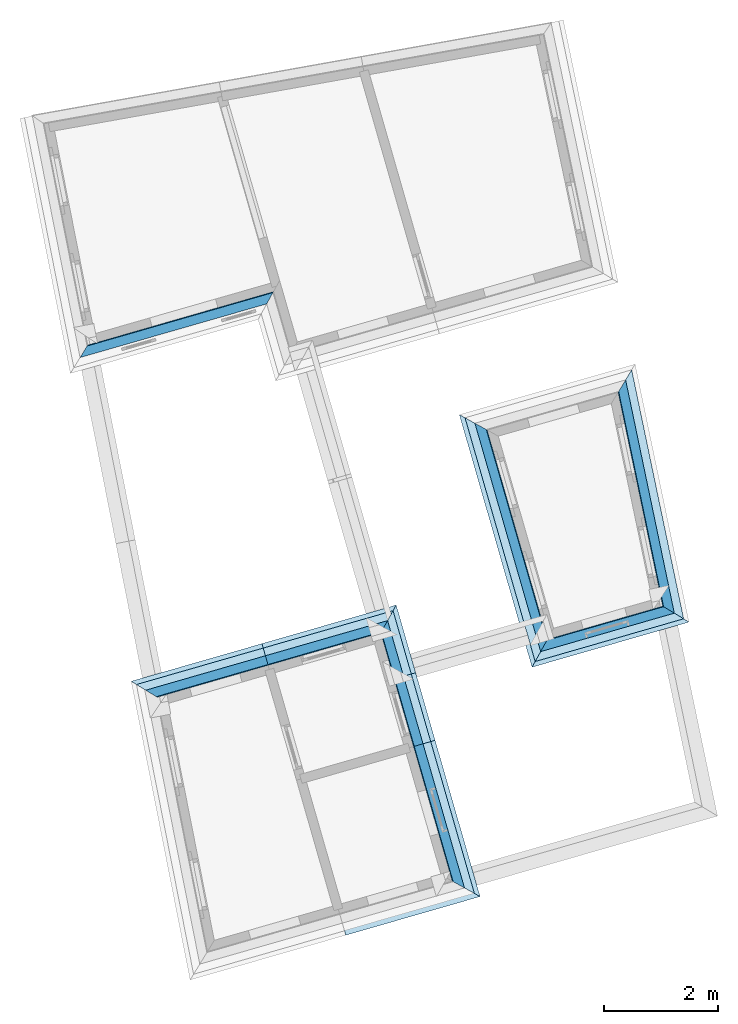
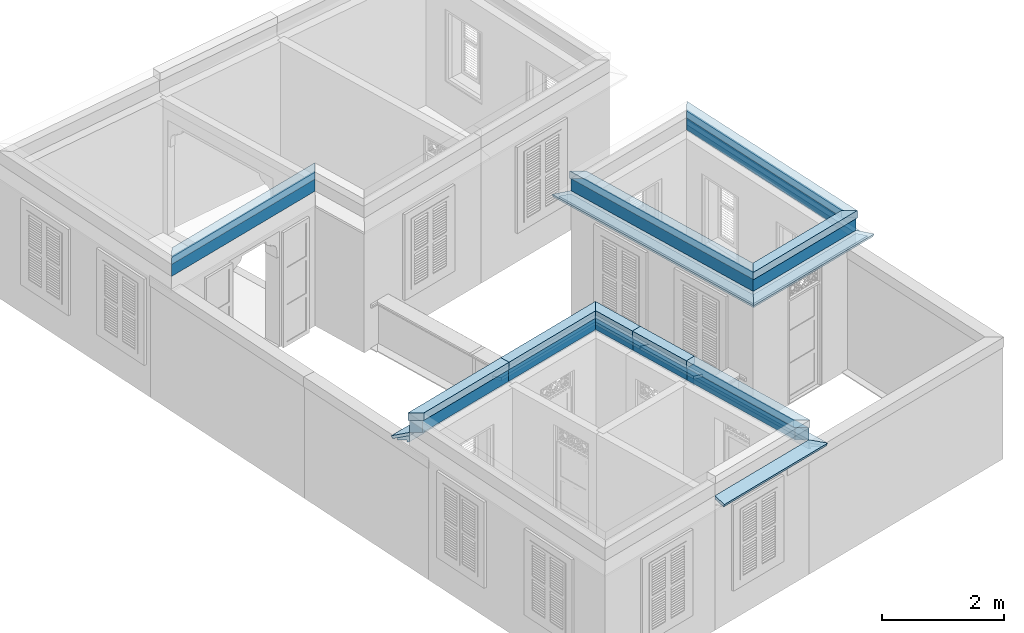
# One storey, part 20 of 22: 34 roofs.
"""IFC4 building model written with IfcOpenShell, lengths in metres."""

from ifc_helpers import new_model, si_unit, frame, origin_with_axes, place, context, subcontext, project, spatial, polyline, outline, extrude, clip, halfspace, material_profile, profile_set, profile_usage, type_object, element, save


model = new_model("IFC4")

# Units and contexts
model_context = context("Model", 3, world=origin_with_axes())
body_context = subcontext(model_context, "Body", "Model", "MODEL_VIEW")
ifc_project = project(units=[si_unit("PLANEANGLEUNIT", "RADIAN"), si_unit("MASSUNIT", "GRAM", prefix="KILO"), si_unit("FORCEUNIT", "NEWTON", prefix="KILO"), si_unit("LENGTHUNIT", "METRE"), si_unit("AREAUNIT", "SQUARE_METRE"), si_unit("VOLUMEUNIT", "CUBIC_METRE")], contexts=[model_context, model_context])

# Site, building, storey
site_placement = place(None, origin_with_axes())
site = spatial("IfcSite", under=ifc_project, at=site_placement, Name="Site plot-9", CompositionType="ELEMENT")
building_placement = place(None, origin_with_axes())
building = spatial("IfcBuilding", under=site, at=building_placement, Name="Building plot-9", CompositionType="ELEMENT")
storey_placement = place(None, frame((0.0, 0.0, 2.85), z_axis=(0.0, 0.0, 1.0), x_axis=(1.0, 0.0, 0.0)))
storey = spatial("IfcBuildingStorey", under=building, at=storey_placement, Name="plot-9 1", CompositionType="ELEMENT", Elevation=2.85)

# Roofs
ifc_material_profile_1 = material_profile(None, outline(polyline([(0.25, 0.0), (0.25, 0.245), (0.09, 0.245), (0.09, 0.0), (0.25, 0.0)])))
ifc_profile_set_1 = profile_set([ifc_material_profile_1])
ifc_profile_usage_1 = profile_usage(ifc_profile_set_1)
roof_type_1 = type_object("IfcRoofType", Name="roofline_0", PredefinedType="FREEFORM", material=ifc_profile_set_1)
roof_1_placement = place(storey_placement, frame((-14.0052509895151, -2.28582190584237, 2.7), z_axis=(-0.276523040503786, 0.96100728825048, 0.0), x_axis=(-0.96100728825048, -0.276523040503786, 0.0)))
element("IfcRoof", 1, at=roof_1_placement, inside=storey, type_object=roof_type_1, material=ifc_profile_usage_1, Name="roofline_0", context=body_context, shape_type="Clipping", body=[
    clip(clip(extrude(outline(polyline([(0.25, 0.0), (0.25, 0.245), (0.09, 0.245), (0.09, 0.0), (0.25, 0.0)])), origin_with_axes(), (0.0, 0.0, 1.0), 5.65707004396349), halfspace(frame((0.0, 0.0, 4.65707004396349), z_axis=(0.70710678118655, 0.0, -0.707106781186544), x_axis=(0.0, 1.0, 0.0)), True)), halfspace(frame((0.0, 0.0, 1.0), z_axis=(-0.707106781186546, 0.0, -0.707106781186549), x_axis=(0.0, 1.0, 0.0)), False)),
])
ifc_profile_usage_2 = profile_usage(ifc_profile_set_1)
roof_2_placement = place(storey_placement, frame((-11.4459590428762, -0.508828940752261, 2.7), z_axis=(-0.961007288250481, -0.276523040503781, 0.0), x_axis=(0.276523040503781, -0.961007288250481, 0.0)))
element("IfcRoof", 2, at=roof_2_placement, inside=storey, type_object=roof_type_1, material=ifc_profile_usage_2, Name="roofline_0", context=body_context, shape_type="Clipping", body=[
    clip(clip(extrude(outline(polyline([(0.25, 0.0), (0.25, 0.245), (0.09, 0.245), (0.09, 0.0), (0.25, 0.0)])), origin_with_axes(), (0.0, 0.0, 1.0), 3.95087771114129), halfspace(frame((0.0, 0.0, 2.95087771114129), z_axis=(0.707106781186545, 0.0, -0.70710678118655), x_axis=(0.0, 1.0, 0.0)), True)), halfspace(frame((0.0, 0.0, 1.0), z_axis=(-0.680340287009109, 0.0, -0.732896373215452), x_axis=(0.0, 1.0, 0.0)), False)),
])
ifc_profile_usage_3 = profile_usage(ifc_profile_set_1)
roof_3_placement = place(storey_placement, frame((-13.3608541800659, 3.78332922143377, 2.7), z_axis=(0.204381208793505, -0.978891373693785, 0.0), x_axis=(0.978891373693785, 0.204381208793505, 0.0)))
element("IfcRoof", 3, at=roof_3_placement, inside=storey, type_object=roof_type_1, material=ifc_profile_usage_3, Name="roofline_0", context=body_context, shape_type="Clipping", body=[
    clip(clip(extrude(outline(polyline([(0.25, 0.0), (0.25, 0.245), (0.09, 0.245), (0.09, 0.0), (0.25, 0.0)])), origin_with_axes(), (0.0, 0.0, 1.0), 5.66719937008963), halfspace(frame((0.0, 0.0, 4.66719937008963), z_axis=(0.680340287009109, 0.0, -0.732896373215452), x_axis=(0.0, 1.0, 0.0)), True)), halfspace(frame((0.0, 0.0, 1.0), z_axis=(-0.732896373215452, 0.0, -0.680340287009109), x_axis=(0.0, 1.0, 0.0)), False)),
])
ifc_material_profile_2 = material_profile(None, outline(polyline([(0.265, 0.245), (0.265, 0.395), (0.075, 0.395), (0.075, 0.245), (0.265, 0.245)])))
ifc_profile_set_2 = profile_set([ifc_material_profile_2])
ifc_profile_usage_4 = profile_usage(ifc_profile_set_2)
roof_type_2 = type_object("IfcRoofType", Name="roofline_1", PredefinedType="FREEFORM", material=ifc_profile_set_2)
roof_4_placement = place(storey_placement, frame((-14.0052509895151, -2.28582190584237, 2.7), z_axis=(-0.276523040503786, 0.96100728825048, 0.0), x_axis=(-0.96100728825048, -0.276523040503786, 0.0)))
element("IfcRoof", 4, at=roof_4_placement, inside=storey, type_object=roof_type_2, material=ifc_profile_usage_4, Name="roofline_1", context=body_context, shape_type="Clipping", body=[
    clip(clip(extrude(outline(polyline([(0.265, 0.245), (0.265, 0.395), (0.075, 0.395), (0.075, 0.245), (0.265, 0.245)])), origin_with_axes(), (0.0, 0.0, 1.0), 5.65707004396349), halfspace(frame((0.0, 0.0, 4.65707004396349), z_axis=(0.70710678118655, 0.0, -0.707106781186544), x_axis=(0.0, 1.0, 0.0)), True)), halfspace(frame((0.0, 0.0, 1.0), z_axis=(-0.707106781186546, 0.0, -0.707106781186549), x_axis=(0.0, 1.0, 0.0)), False)),
])
ifc_profile_usage_5 = profile_usage(ifc_profile_set_2)
roof_5_placement = place(storey_placement, frame((-11.4459590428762, -0.508828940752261, 2.7), z_axis=(-0.961007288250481, -0.276523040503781, 0.0), x_axis=(0.276523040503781, -0.961007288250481, 0.0)))
element("IfcRoof", 5, at=roof_5_placement, inside=storey, type_object=roof_type_2, material=ifc_profile_usage_5, Name="roofline_1", context=body_context, shape_type="Clipping", body=[
    clip(clip(extrude(outline(polyline([(0.265, 0.245), (0.265, 0.395), (0.075, 0.395), (0.075, 0.245), (0.265, 0.245)])), origin_with_axes(), (0.0, 0.0, 1.0), 3.95087771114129), halfspace(frame((0.0, 0.0, 2.95087771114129), z_axis=(0.707106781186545, 0.0, -0.70710678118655), x_axis=(0.0, 1.0, 0.0)), True)), halfspace(frame((0.0, 0.0, 1.0), z_axis=(-0.680340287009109, 0.0, -0.732896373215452), x_axis=(0.0, 1.0, 0.0)), False)),
])
ifc_profile_usage_6 = profile_usage(ifc_profile_set_2)
roof_6_placement = place(storey_placement, frame((-13.3608541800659, 3.78332922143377, 2.7), z_axis=(0.204381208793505, -0.978891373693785, 0.0), x_axis=(0.978891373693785, 0.204381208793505, 0.0)))
element("IfcRoof", 6, at=roof_6_placement, inside=storey, type_object=roof_type_2, material=ifc_profile_usage_6, Name="roofline_1", context=body_context, shape_type="Clipping", body=[
    clip(clip(extrude(outline(polyline([(0.265, 0.245), (0.265, 0.395), (0.075, 0.395), (0.075, 0.245), (0.265, 0.245)])), origin_with_axes(), (0.0, 0.0, 1.0), 5.66719937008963), halfspace(frame((0.0, 0.0, 4.66719937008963), z_axis=(0.680340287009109, 0.0, -0.732896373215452), x_axis=(0.0, 1.0, 0.0)), True)), halfspace(frame((0.0, 0.0, 1.0), z_axis=(-0.732896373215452, 0.0, -0.680340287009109), x_axis=(0.0, 1.0, 0.0)), False)),
])
ifc_material_profile_3 = material_profile(None, outline(polyline([(0.25, 0.0), (0.25, 0.245), (0.09, 0.245), (0.09, 0.0), (0.25, 0.0)])))
ifc_profile_set_3 = profile_set([ifc_material_profile_3])
ifc_profile_usage_7 = profile_usage(ifc_profile_set_3)
roof_type_3 = type_object("IfcRoofType", Name="roofline_0", PredefinedType="FREEFORM", material=ifc_profile_set_3)
roof_7_placement = place(storey_placement, frame((-20.1592093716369, -2.22311497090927, 2.7), z_axis=(0.961007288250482, 0.27652304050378, 0.0), x_axis=(-0.27652304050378, 0.961007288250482, 0.0)))
element("IfcRoof", 7, at=roof_7_placement, inside=storey, type_object=roof_type_3, material=ifc_profile_usage_7, Name="roofline_0", context=body_context, shape_type="Clipping", body=[
    clip(clip(extrude(outline(polyline([(0.25, 0.0), (0.25, 0.245), (0.09, 0.245), (0.09, 0.0), (0.25, 0.0)])), origin_with_axes(), (0.0, 0.0, 1.0), 3.9732685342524), halfspace(frame((0.0, 0.0, 2.9732685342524), z_axis=(0.707106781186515, 0.0, -0.70710678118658), x_axis=(0.0, 1.0, 0.0)), True)), halfspace(frame((0.0, 0.0, 1.0), z_axis=(8.26946079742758e-16, 0.0, -1.0), x_axis=(0.0, 1.0, 0.0)), False)),
])
ifc_profile_usage_8 = profile_usage(ifc_profile_set_3)
roof_8_placement = place(storey_placement, frame((-22.033066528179, -2.76230409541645, 2.7), z_axis=(0.961007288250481, 0.276523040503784, 0.0), x_axis=(-0.276523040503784, 0.961007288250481, 0.0)))
element("IfcRoof", 8, at=roof_8_placement, inside=storey, type_object=roof_type_3, material=ifc_profile_usage_8, Name="roofline_0", context=body_context, shape_type="Clipping", body=[
    clip(clip(extrude(outline(polyline([(0.25, 0.0), (0.25, 0.245), (0.09, 0.245), (0.09, 0.0), (0.25, 0.0)])), origin_with_axes(), (0.0, 0.0, 1.0), 3.94988860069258), halfspace(frame((0.0, 0.0, 2.94988860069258), z_axis=(4.37965975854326e-15, 0.0, -1.0), x_axis=(0.0, 1.0, 0.0)), True)), halfspace(frame((0.0, 0.0, 1.0), z_axis=(-0.676326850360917, 0.0, -0.736601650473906), x_axis=(0.0, 1.0, 0.0)), False)),
])
ifc_profile_usage_9 = profile_usage(ifc_profile_set_3)
roof_9_placement = place(storey_placement, frame((-17.0274500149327, -2.35465928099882, 2.7), z_axis=(0.276523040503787, -0.96100728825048, 0.0), x_axis=(0.96100728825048, 0.276523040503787, 0.0)))
element("IfcRoof", 9, at=roof_9_placement, inside=storey, type_object=roof_type_3, material=ifc_profile_usage_9, Name="roofline_0", context=body_context, shape_type="Clipping", body=[
    clip(clip(extrude(outline(polyline([(0.25, 0.0), (0.25, 0.245), (0.09, 0.245), (0.09, 0.0), (0.25, 0.0)])), origin_with_axes(), (0.0, 0.0, 1.0), 4.37392456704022), halfspace(frame((0.0, 0.0, 3.37392456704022), z_axis=(0.707106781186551, 0.0, -0.707106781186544), x_axis=(0.0, 1.0, 0.0)), True)), halfspace(frame((0.0, 0.0, 1.0), z_axis=(1.60812264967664e-16, 0.0, -1.0), x_axis=(0.0, 1.0, 0.0)), False)),
])
ifc_profile_usage_10 = profile_usage(ifc_profile_set_3)
roof_10_placement = place(storey_placement, frame((-17.3676965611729, -1.17219213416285, 2.7), z_axis=(0.276523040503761, -0.961007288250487, 0.0), x_axis=(0.961007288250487, 0.276523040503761, 0.0)))
element("IfcRoof", 10, at=roof_10_placement, inside=storey, type_object=roof_type_3, material=ifc_profile_usage_10, Name="roofline_0", context=body_context, shape_type="Clipping", body=[
    clip(clip(extrude(outline(polyline([(0.25, 0.0), (0.25, 0.245), (0.09, 0.245), (0.09, 0.0), (0.25, 0.0)])), origin_with_axes(), (0.0, 0.0, 1.0), 3.23044555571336), halfspace(frame((0.0, 0.0, 2.23044555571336), z_axis=(-2.71506741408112e-14, 0.0, -1.0), x_axis=(0.0, 1.0, 0.0)), True)), halfspace(frame((0.0, 0.0, 1.0), z_axis=(6.04901474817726e-16, 0.0, -1.0), x_axis=(0.0, 1.0, 0.0)), False)),
])
ifc_profile_usage_11 = profile_usage(ifc_profile_set_3)
roof_11_placement = place(storey_placement, frame((-17.5783996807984, -0.439930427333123, 2.7), z_axis=(0.276523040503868, -0.961007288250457, 0.0), x_axis=(0.961007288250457, 0.276523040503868, 0.0)))
element("IfcRoof", 11, at=roof_11_placement, inside=storey, type_object=roof_type_3, material=ifc_profile_usage_11, Name="roofline_0", context=body_context, shape_type="Clipping", body=[
    clip(clip(extrude(outline(polyline([(0.25, 0.0), (0.25, 0.245), (0.09, 0.245), (0.09, 0.0), (0.25, 0.0)])), origin_with_axes(), (0.0, 0.0, 1.0), 2.76197310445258), halfspace(frame((0.0, 0.0, 1.76197310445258), z_axis=(1.11405159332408e-13, 0.0, -1.0), x_axis=(0.0, 1.0, 0.0)), True)), halfspace(frame((0.0, 0.0, 1.0), z_axis=(-0.707106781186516, 0.0, -0.707106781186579), x_axis=(0.0, 1.0, 0.0)), False)),
])
ifc_material_profile_4 = material_profile(None, outline(polyline([(0.265, 0.245), (0.265, 0.395), (0.075, 0.395), (0.075, 0.245), (0.265, 0.245)])))
ifc_profile_set_4 = profile_set([ifc_material_profile_4])
ifc_profile_usage_12 = profile_usage(ifc_profile_set_4)
roof_type_4 = type_object("IfcRoofType", Name="roofline_1", PredefinedType="FREEFORM", material=ifc_profile_set_4)
roof_12_placement = place(storey_placement, frame((-20.1592093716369, -2.22311497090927, 2.7), z_axis=(0.961007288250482, 0.27652304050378, 0.0), x_axis=(-0.27652304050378, 0.961007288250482, 0.0)))
element("IfcRoof", 12, at=roof_12_placement, inside=storey, type_object=roof_type_4, material=ifc_profile_usage_12, Name="roofline_1", context=body_context, shape_type="Clipping", body=[
    clip(clip(extrude(outline(polyline([(0.265, 0.245), (0.265, 0.395), (0.075, 0.395), (0.075, 0.245), (0.265, 0.245)])), origin_with_axes(), (0.0, 0.0, 1.0), 3.9732685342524), halfspace(frame((0.0, 0.0, 2.9732685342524), z_axis=(0.707106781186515, 0.0, -0.70710678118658), x_axis=(0.0, 1.0, 0.0)), True)), halfspace(frame((0.0, 0.0, 1.0), z_axis=(8.26946079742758e-16, 0.0, -1.0), x_axis=(0.0, 1.0, 0.0)), False)),
])
ifc_profile_usage_13 = profile_usage(ifc_profile_set_4)
roof_13_placement = place(storey_placement, frame((-22.033066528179, -2.76230409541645, 2.7), z_axis=(0.961007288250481, 0.276523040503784, 0.0), x_axis=(-0.276523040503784, 0.961007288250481, 0.0)))
element("IfcRoof", 13, at=roof_13_placement, inside=storey, type_object=roof_type_4, material=ifc_profile_usage_13, Name="roofline_1", context=body_context, shape_type="Clipping", body=[
    clip(clip(extrude(outline(polyline([(0.265, 0.245), (0.265, 0.395), (0.075, 0.395), (0.075, 0.245), (0.265, 0.245)])), origin_with_axes(), (0.0, 0.0, 1.0), 3.94988860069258), halfspace(frame((0.0, 0.0, 2.94988860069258), z_axis=(4.37965975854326e-15, 0.0, -1.0), x_axis=(0.0, 1.0, 0.0)), True)), halfspace(frame((0.0, 0.0, 1.0), z_axis=(-0.676326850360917, 0.0, -0.736601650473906), x_axis=(0.0, 1.0, 0.0)), False)),
])
ifc_profile_usage_14 = profile_usage(ifc_profile_set_4)
roof_14_placement = place(storey_placement, frame((-17.0274500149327, -2.35465928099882, 2.7), z_axis=(0.276523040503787, -0.96100728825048, 0.0), x_axis=(0.96100728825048, 0.276523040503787, 0.0)))
element("IfcRoof", 14, at=roof_14_placement, inside=storey, type_object=roof_type_4, material=ifc_profile_usage_14, Name="roofline_1", context=body_context, shape_type="Clipping", body=[
    clip(clip(extrude(outline(polyline([(0.265, 0.245), (0.265, 0.395), (0.075, 0.395), (0.075, 0.245), (0.265, 0.245)])), origin_with_axes(), (0.0, 0.0, 1.0), 4.37392456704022), halfspace(frame((0.0, 0.0, 3.37392456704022), z_axis=(0.707106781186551, 0.0, -0.707106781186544), x_axis=(0.0, 1.0, 0.0)), True)), halfspace(frame((0.0, 0.0, 1.0), z_axis=(1.60812264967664e-16, 0.0, -1.0), x_axis=(0.0, 1.0, 0.0)), False)),
])
ifc_profile_usage_15 = profile_usage(ifc_profile_set_4)
roof_15_placement = place(storey_placement, frame((-17.3676965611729, -1.17219213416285, 2.7), z_axis=(0.276523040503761, -0.961007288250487, 0.0), x_axis=(0.961007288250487, 0.276523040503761, 0.0)))
element("IfcRoof", 15, at=roof_15_placement, inside=storey, type_object=roof_type_4, material=ifc_profile_usage_15, Name="roofline_1", context=body_context, shape_type="Clipping", body=[
    clip(clip(extrude(outline(polyline([(0.265, 0.245), (0.265, 0.395), (0.075, 0.395), (0.075, 0.245), (0.265, 0.245)])), origin_with_axes(), (0.0, 0.0, 1.0), 3.23044555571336), halfspace(frame((0.0, 0.0, 2.23044555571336), z_axis=(-2.71506741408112e-14, 0.0, -1.0), x_axis=(0.0, 1.0, 0.0)), True)), halfspace(frame((0.0, 0.0, 1.0), z_axis=(6.04901474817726e-16, 0.0, -1.0), x_axis=(0.0, 1.0, 0.0)), False)),
])
ifc_profile_usage_16 = profile_usage(ifc_profile_set_4)
roof_16_placement = place(storey_placement, frame((-17.5783996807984, -0.439930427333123, 2.7), z_axis=(0.276523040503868, -0.961007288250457, 0.0), x_axis=(0.961007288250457, 0.276523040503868, 0.0)))
element("IfcRoof", 16, at=roof_16_placement, inside=storey, type_object=roof_type_4, material=ifc_profile_usage_16, Name="roofline_1", context=body_context, shape_type="Clipping", body=[
    clip(clip(extrude(outline(polyline([(0.265, 0.245), (0.265, 0.395), (0.075, 0.395), (0.075, 0.245), (0.265, 0.245)])), origin_with_axes(), (0.0, 0.0, 1.0), 2.76197310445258), halfspace(frame((0.0, 0.0, 1.76197310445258), z_axis=(1.11405159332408e-13, 0.0, -1.0), x_axis=(0.0, 1.0, 0.0)), True)), halfspace(frame((0.0, 0.0, 1.0), z_axis=(-0.707106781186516, 0.0, -0.707106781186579), x_axis=(0.0, 1.0, 0.0)), False)),
])
ifc_material_profile_5 = material_profile(None, outline(polyline([(0.25, 0.0), (0.25, 0.245), (0.09, 0.245), (0.09, 0.0), (0.25, 0.0)])))
ifc_profile_set_5 = profile_set([ifc_material_profile_5])
ifc_profile_usage_17 = profile_usage(ifc_profile_set_5)
roof_type_5 = type_object("IfcRoofType", Name="roofline_0", PredefinedType="FREEFORM", material=ifc_profile_set_5)
roof_17_placement = place(storey_placement, frame((-18.1128477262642, 5.03378497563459, 2.7), z_axis=(-0.96108624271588, -0.276248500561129, 0.0), x_axis=(0.276248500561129, -0.96108624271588, 0.0)))
element("IfcRoof", 17, at=roof_17_placement, inside=storey, type_object=roof_type_5, material=ifc_profile_usage_17, Name="roofline_0", context=body_context, shape_type="Clipping", body=[
    clip(clip(extrude(outline(polyline([(0.25, 0.0), (0.25, 0.245), (0.09, 0.245), (0.09, 0.0), (0.25, 0.0)])), origin_with_axes(), (0.0, 0.0, 1.0), 5.37532396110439), halfspace(frame((0.0, 0.0, 4.37532396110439), z_axis=(0.736505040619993, 0.0, -0.676432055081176), x_axis=(0.0, 1.0, 0.0)), True)), halfspace(frame((0.0, 0.0, 1.0), z_axis=(0.707005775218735, 0.0, -0.707207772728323), x_axis=(0.0, 1.0, 0.0)), False)),
])
ifc_material_profile_6 = material_profile(None, outline(polyline([(0.265, 0.245), (0.265, 0.395), (0.075, 0.395), (0.075, 0.245), (0.265, 0.245)])))
ifc_profile_set_6 = profile_set([ifc_material_profile_6])
ifc_profile_usage_18 = profile_usage(ifc_profile_set_6)
roof_type_6 = type_object("IfcRoofType", Name="roofline_1", PredefinedType="FREEFORM", material=ifc_profile_set_6)
roof_18_placement = place(storey_placement, frame((-18.1128477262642, 5.03378497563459, 2.7), z_axis=(-0.96108624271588, -0.276248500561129, 0.0), x_axis=(0.276248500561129, -0.96108624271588, 0.0)))
element("IfcRoof", 18, at=roof_18_placement, inside=storey, type_object=roof_type_6, material=ifc_profile_usage_18, Name="roofline_1", context=body_context, shape_type="Clipping", body=[
    clip(clip(extrude(outline(polyline([(0.265, 0.245), (0.265, 0.395), (0.075, 0.395), (0.075, 0.245), (0.265, 0.245)])), origin_with_axes(), (0.0, 0.0, 1.0), 5.37532396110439), halfspace(frame((0.0, 0.0, 4.37532396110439), z_axis=(0.736505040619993, 0.0, -0.676432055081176), x_axis=(0.0, 1.0, 0.0)), True)), halfspace(frame((0.0, 0.0, 1.0), z_axis=(0.707005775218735, 0.0, -0.707207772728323), x_axis=(0.0, 1.0, 0.0)), False)),
])
ifc_material_profile_7 = material_profile(None, outline(polyline([(0.25, -0.19), (0.275, -0.19), (0.275, -0.15), (0.39, -0.15), (0.39, -0.107509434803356), (0.25, -0.0629639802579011), (0.25, -0.19)])))
ifc_profile_set_7 = profile_set([ifc_material_profile_7])
ifc_profile_usage_19 = profile_usage(ifc_profile_set_7)
roof_type_7 = type_object("IfcRoofType", Name="eaves_0", PredefinedType="FREEFORM", material=ifc_profile_set_7)
roof_19_placement = place(storey_placement, frame((-14.0052509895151, -2.28582190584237, 2.7), z_axis=(-0.276523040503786, 0.96100728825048, 0.0), x_axis=(-0.96100728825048, -0.276523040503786, 0.0)))
element("IfcRoof", 19, at=roof_19_placement, inside=storey, type_object=roof_type_7, material=ifc_profile_usage_19, Name="eaves_0", context=body_context, shape_type="Clipping", body=[
    clip(clip(extrude(outline(polyline([(0.25, -0.19), (0.275, -0.19), (0.275, -0.15), (0.39, -0.15), (0.39, -0.107509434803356), (0.25, -0.0629639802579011), (0.25, -0.19)])), origin_with_axes(), (0.0, 0.0, 1.0), 5.65707004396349), halfspace(frame((0.0, 0.0, 4.65707004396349), z_axis=(0.70710678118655, 0.0, -0.707106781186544), x_axis=(0.0, 1.0, 0.0)), True)), halfspace(frame((0.0, 0.0, 1.0), z_axis=(-0.707106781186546, 0.0, -0.707106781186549), x_axis=(0.0, 1.0, 0.0)), False)),
])
ifc_profile_usage_20 = profile_usage(ifc_profile_set_7)
roof_20_placement = place(storey_placement, frame((-11.4459590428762, -0.508828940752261, 2.7), z_axis=(-0.961007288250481, -0.276523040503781, 0.0), x_axis=(0.276523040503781, -0.961007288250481, 0.0)))
element("IfcRoof", 20, at=roof_20_placement, inside=storey, type_object=roof_type_7, material=ifc_profile_usage_20, Name="eaves_0", context=body_context, shape_type="Clipping", body=[
    clip(clip(extrude(outline(polyline([(0.25, -0.19), (0.275, -0.19), (0.275, -0.15), (0.39, -0.15), (0.39, -0.107509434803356), (0.25, -0.0629639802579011), (0.25, -0.19)])), origin_with_axes(), (0.0, 0.0, 1.0), 3.95087771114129), halfspace(frame((0.0, 0.0, 2.95087771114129), z_axis=(0.707106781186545, 0.0, -0.70710678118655), x_axis=(0.0, 1.0, 0.0)), True)), halfspace(frame((0.0, 0.0, 1.0), z_axis=(-0.680340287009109, 0.0, -0.732896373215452), x_axis=(0.0, 1.0, 0.0)), False)),
])
ifc_profile_usage_21 = profile_usage(ifc_profile_set_7)
roof_21_placement = place(storey_placement, frame((-13.3608541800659, 3.78332922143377, 2.7), z_axis=(0.204381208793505, -0.978891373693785, 0.0), x_axis=(0.978891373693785, 0.204381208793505, 0.0)))
element("IfcRoof", 21, at=roof_21_placement, inside=storey, type_object=roof_type_7, material=ifc_profile_usage_21, Name="eaves_0", context=body_context, shape_type="Clipping", body=[
    clip(clip(extrude(outline(polyline([(0.25, -0.19), (0.275, -0.19), (0.275, -0.15), (0.39, -0.15), (0.39, -0.107509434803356), (0.25, -0.0629639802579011), (0.25, -0.19)])), origin_with_axes(), (0.0, 0.0, 1.0), 5.66719937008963), halfspace(frame((0.0, 0.0, 4.66719937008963), z_axis=(0.680340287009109, 0.0, -0.732896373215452), x_axis=(0.0, 1.0, 0.0)), True)), halfspace(frame((0.0, 0.0, 1.0), z_axis=(-0.732896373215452, 0.0, -0.680340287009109), x_axis=(0.0, 1.0, 0.0)), False)),
])
ifc_material_profile_8 = material_profile(None, outline(polyline([(0.25, -0.0629639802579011), (0.451807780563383, -0.127175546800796), (0.47, -0.07), (0.25, 0.0), (0.25, -0.0629639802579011)])))
ifc_profile_set_8 = profile_set([ifc_material_profile_8])
ifc_profile_usage_22 = profile_usage(ifc_profile_set_8)
roof_type_8 = type_object("IfcRoofType", Name="eaves_1", PredefinedType="FREEFORM", material=ifc_profile_set_8)
roof_22_placement = place(storey_placement, frame((-14.0052509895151, -2.28582190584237, 2.7), z_axis=(-0.276523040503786, 0.96100728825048, 0.0), x_axis=(-0.96100728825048, -0.276523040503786, 0.0)))
element("IfcRoof", 22, at=roof_22_placement, inside=storey, type_object=roof_type_8, material=ifc_profile_usage_22, Name="eaves_1", context=body_context, shape_type="Clipping", body=[
    clip(clip(extrude(outline(polyline([(0.25, -0.0629639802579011), (0.451807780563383, -0.127175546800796), (0.47, -0.07), (0.25, 0.0), (0.25, -0.0629639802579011)])), origin_with_axes(), (0.0, 0.0, 1.0), 5.65707004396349), halfspace(frame((0.0, 0.0, 4.65707004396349), z_axis=(0.70710678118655, 0.0, -0.707106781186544), x_axis=(0.0, 1.0, 0.0)), True)), halfspace(frame((0.0, 0.0, 1.0), z_axis=(-0.707106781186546, 0.0, -0.707106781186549), x_axis=(0.0, 1.0, 0.0)), False)),
])
ifc_profile_usage_23 = profile_usage(ifc_profile_set_8)
roof_23_placement = place(storey_placement, frame((-11.4459590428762, -0.508828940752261, 2.7), z_axis=(-0.961007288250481, -0.276523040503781, 0.0), x_axis=(0.276523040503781, -0.961007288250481, 0.0)))
element("IfcRoof", 23, at=roof_23_placement, inside=storey, type_object=roof_type_8, material=ifc_profile_usage_23, Name="eaves_1", context=body_context, shape_type="Clipping", body=[
    clip(clip(extrude(outline(polyline([(0.25, -0.0629639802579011), (0.451807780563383, -0.127175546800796), (0.47, -0.07), (0.25, 0.0), (0.25, -0.0629639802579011)])), origin_with_axes(), (0.0, 0.0, 1.0), 3.95087771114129), halfspace(frame((0.0, 0.0, 2.95087771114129), z_axis=(0.707106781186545, 0.0, -0.70710678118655), x_axis=(0.0, 1.0, 0.0)), True)), halfspace(frame((0.0, 0.0, 1.0), z_axis=(-0.680340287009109, 0.0, -0.732896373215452), x_axis=(0.0, 1.0, 0.0)), False)),
])
ifc_material_profile_9 = material_profile(None, outline(polyline([(0.25, -0.19), (0.275, -0.19), (0.275, -0.15), (0.39, -0.15), (0.39, -0.107509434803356), (0.25, -0.0629639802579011), (0.25, -0.19)])))
ifc_profile_set_9 = profile_set([ifc_material_profile_9])
ifc_profile_usage_24 = profile_usage(ifc_profile_set_9)
roof_type_9 = type_object("IfcRoofType", Name="eaves_0", PredefinedType="FREEFORM", material=ifc_profile_set_9)
roof_24_placement = place(storey_placement, frame((-22.033066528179, -2.76230409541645, 2.7), z_axis=(0.961007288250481, 0.276523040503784, 0.0), x_axis=(-0.276523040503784, 0.961007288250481, 0.0)))
element("IfcRoof", 24, at=roof_24_placement, inside=storey, type_object=roof_type_9, material=ifc_profile_usage_24, Name="eaves_0", context=body_context, shape_type="Clipping", body=[
    clip(clip(extrude(outline(polyline([(0.25, -0.19), (0.275, -0.19), (0.275, -0.15), (0.39, -0.15), (0.39, -0.107509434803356), (0.25, -0.0629639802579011), (0.25, -0.19)])), origin_with_axes(), (0.0, 0.0, 1.0), 3.94988860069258), halfspace(frame((0.0, 0.0, 2.94988860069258), z_axis=(4.37965975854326e-15, 0.0, -1.0), x_axis=(0.0, 1.0, 0.0)), True)), halfspace(frame((0.0, 0.0, 1.0), z_axis=(-0.676326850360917, 0.0, -0.736601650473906), x_axis=(0.0, 1.0, 0.0)), False)),
])
ifc_profile_usage_25 = profile_usage(ifc_profile_set_9)
roof_25_placement = place(storey_placement, frame((-17.0274500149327, -2.35465928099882, 2.7), z_axis=(0.276523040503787, -0.96100728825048, 0.0), x_axis=(0.96100728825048, 0.276523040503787, 0.0)))
element("IfcRoof", 25, at=roof_25_placement, inside=storey, type_object=roof_type_9, material=ifc_profile_usage_25, Name="eaves_0", context=body_context, shape_type="Clipping", body=[
    clip(clip(extrude(outline(polyline([(0.25, -0.19), (0.275, -0.19), (0.275, -0.15), (0.39, -0.15), (0.39, -0.107509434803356), (0.25, -0.0629639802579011), (0.25, -0.19)])), origin_with_axes(), (0.0, 0.0, 1.0), 4.37392456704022), halfspace(frame((0.0, 0.0, 3.37392456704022), z_axis=(0.707106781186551, 0.0, -0.707106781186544), x_axis=(0.0, 1.0, 0.0)), True)), halfspace(frame((0.0, 0.0, 1.0), z_axis=(1.60812264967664e-16, 0.0, -1.0), x_axis=(0.0, 1.0, 0.0)), False)),
])
ifc_profile_usage_26 = profile_usage(ifc_profile_set_9)
roof_26_placement = place(storey_placement, frame((-17.3676965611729, -1.17219213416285, 2.7), z_axis=(0.276523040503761, -0.961007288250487, 0.0), x_axis=(0.961007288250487, 0.276523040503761, 0.0)))
element("IfcRoof", 26, at=roof_26_placement, inside=storey, type_object=roof_type_9, material=ifc_profile_usage_26, Name="eaves_0", context=body_context, shape_type="Clipping", body=[
    clip(clip(extrude(outline(polyline([(0.25, -0.19), (0.275, -0.19), (0.275, -0.15), (0.39, -0.15), (0.39, -0.107509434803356), (0.25, -0.0629639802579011), (0.25, -0.19)])), origin_with_axes(), (0.0, 0.0, 1.0), 3.23044555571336), halfspace(frame((0.0, 0.0, 2.23044555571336), z_axis=(-2.71506741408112e-14, 0.0, -1.0), x_axis=(0.0, 1.0, 0.0)), True)), halfspace(frame((0.0, 0.0, 1.0), z_axis=(6.04901474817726e-16, 0.0, -1.0), x_axis=(0.0, 1.0, 0.0)), False)),
])
ifc_profile_usage_27 = profile_usage(ifc_profile_set_9)
roof_27_placement = place(storey_placement, frame((-17.5783996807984, -0.439930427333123, 2.7), z_axis=(0.276523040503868, -0.961007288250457, 0.0), x_axis=(0.961007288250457, 0.276523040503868, 0.0)))
element("IfcRoof", 27, at=roof_27_placement, inside=storey, type_object=roof_type_9, material=ifc_profile_usage_27, Name="eaves_0", context=body_context, shape_type="Clipping", body=[
    clip(clip(extrude(outline(polyline([(0.25, -0.19), (0.275, -0.19), (0.275, -0.15), (0.39, -0.15), (0.39, -0.107509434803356), (0.25, -0.0629639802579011), (0.25, -0.19)])), origin_with_axes(), (0.0, 0.0, 1.0), 2.76197310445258), halfspace(frame((0.0, 0.0, 1.76197310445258), z_axis=(1.11405159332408e-13, 0.0, -1.0), x_axis=(0.0, 1.0, 0.0)), True)), halfspace(frame((0.0, 0.0, 1.0), z_axis=(-0.707106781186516, 0.0, -0.707106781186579), x_axis=(0.0, 1.0, 0.0)), False)),
])
ifc_profile_usage_28 = profile_usage(ifc_profile_set_9)
roof_28_placement = place(storey_placement, frame((-20.1592093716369, -2.22311497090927, 2.7), z_axis=(0.961007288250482, 0.27652304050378, 0.0), x_axis=(-0.27652304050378, 0.961007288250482, 0.0)))
element("IfcRoof", 28, at=roof_28_placement, inside=storey, type_object=roof_type_9, material=ifc_profile_usage_28, Name="eaves_0", context=body_context, shape_type="Clipping", body=[
    clip(clip(extrude(outline(polyline([(0.25, -0.19), (0.275, -0.19), (0.275, -0.15), (0.39, -0.15), (0.39, -0.107509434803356), (0.25, -0.0629639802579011), (0.25, -0.19)])), origin_with_axes(), (0.0, 0.0, 1.0), 3.9732685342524), halfspace(frame((0.0, 0.0, 2.9732685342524), z_axis=(0.707106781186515, 0.0, -0.70710678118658), x_axis=(0.0, 1.0, 0.0)), True)), halfspace(frame((0.0, 0.0, 1.0), z_axis=(8.26946079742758e-16, 0.0, -1.0), x_axis=(0.0, 1.0, 0.0)), False)),
])
ifc_material_profile_10 = material_profile(None, outline(polyline([(0.25, -0.0629639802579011), (0.451807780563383, -0.127175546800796), (0.47, -0.07), (0.25, 0.0), (0.25, -0.0629639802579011)])))
ifc_profile_set_10 = profile_set([ifc_material_profile_10])
ifc_profile_usage_29 = profile_usage(ifc_profile_set_10)
roof_type_10 = type_object("IfcRoofType", Name="eaves_1", PredefinedType="FREEFORM", material=ifc_profile_set_10)
roof_29_placement = place(storey_placement, frame((-22.033066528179, -2.76230409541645, 2.7), z_axis=(0.961007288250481, 0.276523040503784, 0.0), x_axis=(-0.276523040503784, 0.961007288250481, 0.0)))
element("IfcRoof", 29, at=roof_29_placement, inside=storey, type_object=roof_type_10, material=ifc_profile_usage_29, Name="eaves_1", context=body_context, shape_type="Clipping", body=[
    clip(clip(extrude(outline(polyline([(0.25, -0.0629639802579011), (0.451807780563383, -0.127175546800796), (0.47, -0.07), (0.25, 0.0), (0.25, -0.0629639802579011)])), origin_with_axes(), (0.0, 0.0, 1.0), 3.94988860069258), halfspace(frame((0.0, 0.0, 2.94988860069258), z_axis=(4.37965975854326e-15, 0.0, -1.0), x_axis=(0.0, 1.0, 0.0)), True)), halfspace(frame((0.0, 0.0, 1.0), z_axis=(-0.676326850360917, 0.0, -0.736601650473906), x_axis=(0.0, 1.0, 0.0)), False)),
])
ifc_profile_usage_30 = profile_usage(ifc_profile_set_10)
roof_30_placement = place(storey_placement, frame((-15.1334748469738, -5.32050233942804, 2.7), z_axis=(-0.961007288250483, -0.276523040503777, 0.0), x_axis=(0.276523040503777, -0.961007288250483, 0.0)))
element("IfcRoof", 30, at=roof_30_placement, inside=storey, type_object=roof_type_10, material=ifc_profile_usage_30, Name="eaves_1", context=body_context, shape_type="Clipping", body=[
    clip(clip(extrude(outline(polyline([(0.25, -0.0629639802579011), (0.451807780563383, -0.127175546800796), (0.47, -0.07), (0.25, 0.0), (0.25, -0.0629639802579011)])), origin_with_axes(), (0.0, 0.0, 1.0), 3.97442354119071), halfspace(frame((0.0, 0.0, 2.97442354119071), z_axis=(5.26783817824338e-15, 0.0, -1.0), x_axis=(0.0, 1.0, 0.0)), True)), halfspace(frame((0.0, 0.0, 1.0), z_axis=(-0.707106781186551, 0.0, -0.707106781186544), x_axis=(0.0, 1.0, 0.0)), False)),
])
ifc_profile_usage_31 = profile_usage(ifc_profile_set_10)
roof_31_placement = place(storey_placement, frame((-17.0274500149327, -2.35465928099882, 2.7), z_axis=(0.276523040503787, -0.96100728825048, 0.0), x_axis=(0.96100728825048, 0.276523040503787, 0.0)))
element("IfcRoof", 31, at=roof_31_placement, inside=storey, type_object=roof_type_10, material=ifc_profile_usage_31, Name="eaves_1", context=body_context, shape_type="Clipping", body=[
    clip(clip(extrude(outline(polyline([(0.25, -0.0629639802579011), (0.451807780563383, -0.127175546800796), (0.47, -0.07), (0.25, 0.0), (0.25, -0.0629639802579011)])), origin_with_axes(), (0.0, 0.0, 1.0), 4.37392456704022), halfspace(frame((0.0, 0.0, 3.37392456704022), z_axis=(0.707106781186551, 0.0, -0.707106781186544), x_axis=(0.0, 1.0, 0.0)), True)), halfspace(frame((0.0, 0.0, 1.0), z_axis=(1.60812264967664e-16, 0.0, -1.0), x_axis=(0.0, 1.0, 0.0)), False)),
])
ifc_profile_usage_32 = profile_usage(ifc_profile_set_10)
roof_32_placement = place(storey_placement, frame((-17.3676965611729, -1.17219213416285, 2.7), z_axis=(0.276523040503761, -0.961007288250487, 0.0), x_axis=(0.961007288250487, 0.276523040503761, 0.0)))
element("IfcRoof", 32, at=roof_32_placement, inside=storey, type_object=roof_type_10, material=ifc_profile_usage_32, Name="eaves_1", context=body_context, shape_type="Clipping", body=[
    clip(clip(extrude(outline(polyline([(0.25, -0.0629639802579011), (0.451807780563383, -0.127175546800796), (0.47, -0.07), (0.25, 0.0), (0.25, -0.0629639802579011)])), origin_with_axes(), (0.0, 0.0, 1.0), 3.23044555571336), halfspace(frame((0.0, 0.0, 2.23044555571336), z_axis=(-2.71506741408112e-14, 0.0, -1.0), x_axis=(0.0, 1.0, 0.0)), True)), halfspace(frame((0.0, 0.0, 1.0), z_axis=(6.04901474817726e-16, 0.0, -1.0), x_axis=(0.0, 1.0, 0.0)), False)),
])
ifc_profile_usage_33 = profile_usage(ifc_profile_set_10)
roof_33_placement = place(storey_placement, frame((-17.5783996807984, -0.439930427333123, 2.7), z_axis=(0.276523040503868, -0.961007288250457, 0.0), x_axis=(0.961007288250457, 0.276523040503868, 0.0)))
element("IfcRoof", 33, at=roof_33_placement, inside=storey, type_object=roof_type_10, material=ifc_profile_usage_33, Name="eaves_1", context=body_context, shape_type="Clipping", body=[
    clip(clip(extrude(outline(polyline([(0.25, -0.0629639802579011), (0.451807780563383, -0.127175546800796), (0.47, -0.07), (0.25, 0.0), (0.25, -0.0629639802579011)])), origin_with_axes(), (0.0, 0.0, 1.0), 2.76197310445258), halfspace(frame((0.0, 0.0, 1.76197310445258), z_axis=(1.11405159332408e-13, 0.0, -1.0), x_axis=(0.0, 1.0, 0.0)), True)), halfspace(frame((0.0, 0.0, 1.0), z_axis=(-0.707106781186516, 0.0, -0.707106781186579), x_axis=(0.0, 1.0, 0.0)), False)),
])
ifc_profile_usage_34 = profile_usage(ifc_profile_set_10)
roof_34_placement = place(storey_placement, frame((-20.1592093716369, -2.22311497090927, 2.7), z_axis=(0.961007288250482, 0.27652304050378, 0.0), x_axis=(-0.27652304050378, 0.961007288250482, 0.0)))
element("IfcRoof", 34, at=roof_34_placement, inside=storey, type_object=roof_type_10, material=ifc_profile_usage_34, Name="eaves_1", context=body_context, shape_type="Clipping", body=[
    clip(clip(extrude(outline(polyline([(0.25, -0.0629639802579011), (0.451807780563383, -0.127175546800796), (0.47, -0.07), (0.25, 0.0), (0.25, -0.0629639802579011)])), origin_with_axes(), (0.0, 0.0, 1.0), 3.9732685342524), halfspace(frame((0.0, 0.0, 2.9732685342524), z_axis=(0.707106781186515, 0.0, -0.70710678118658), x_axis=(0.0, 1.0, 0.0)), True)), halfspace(frame((0.0, 0.0, 1.0), z_axis=(8.26946079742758e-16, 0.0, -1.0), x_axis=(0.0, 1.0, 0.0)), False)),
])

save(model, "model.ifc")
